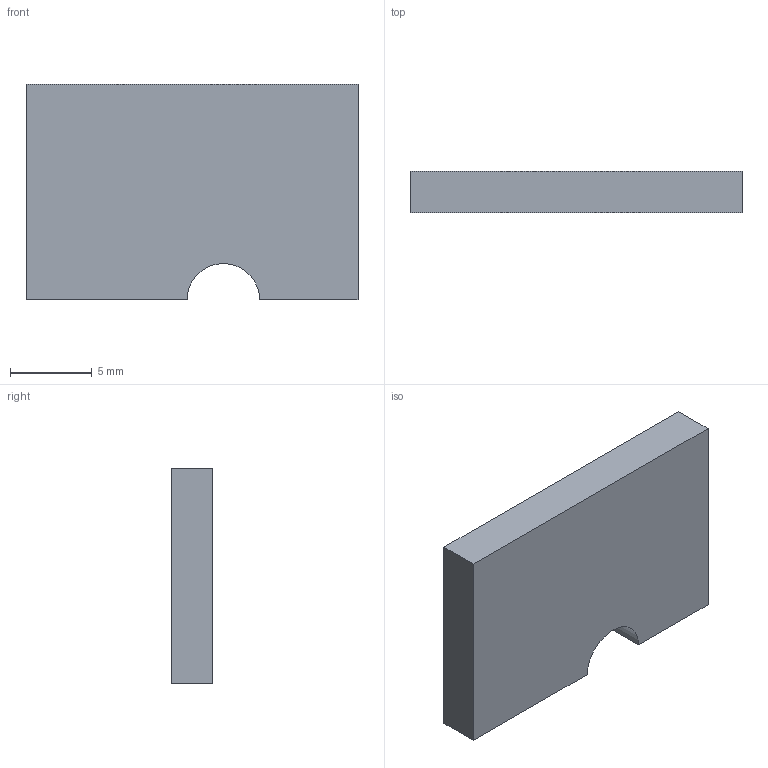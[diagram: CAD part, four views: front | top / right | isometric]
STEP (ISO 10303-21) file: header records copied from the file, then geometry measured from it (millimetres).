
FILE_DESCRIPTION(/* description */ (''),/* implementation_level */ '2;1');
FILE_NAME(/* name */ 'C:/Users/Ryan/Documents/AIO Robotics/CAD Files/ThumbFirstJoint.step',/* time_stamp */ '2017-02-04T20:53:58-08:00',/* author */ (''),/* organization */ (''),/* preprocessor_version */ 'ST-DEVELOPER v16.5',/* originating_system */ 'Autodesk Translation Framework v5.2.0.2920',/* authorisation */ '');
FILE_SCHEMA (('AUTOMOTIVE_DESIGN { 1 0 10303 214 3 1 1 }'));
Length unit declared in the file: inch
Products named in the file (1): KnuckleThumbJoint v7
Bounding box: 20.32 x 2.54 x 13.21 mm (x, y, z)
Volume: 662 mm3; surface area: 698 mm2
Topology: 1 solids, 1 shells, 8 faces, 18 edges, 12 vertices
Faces by surface type: plane 7, cylinder 1
Entity records: 248 total; most frequent: CARTESIAN_POINT 39, DIRECTION 38, ORIENTED_EDGE 36, EDGE_CURVE 18, LINE 16, VECTOR 16, VERTEX_POINT 12, AXIS2_PLACEMENT_3D 11
